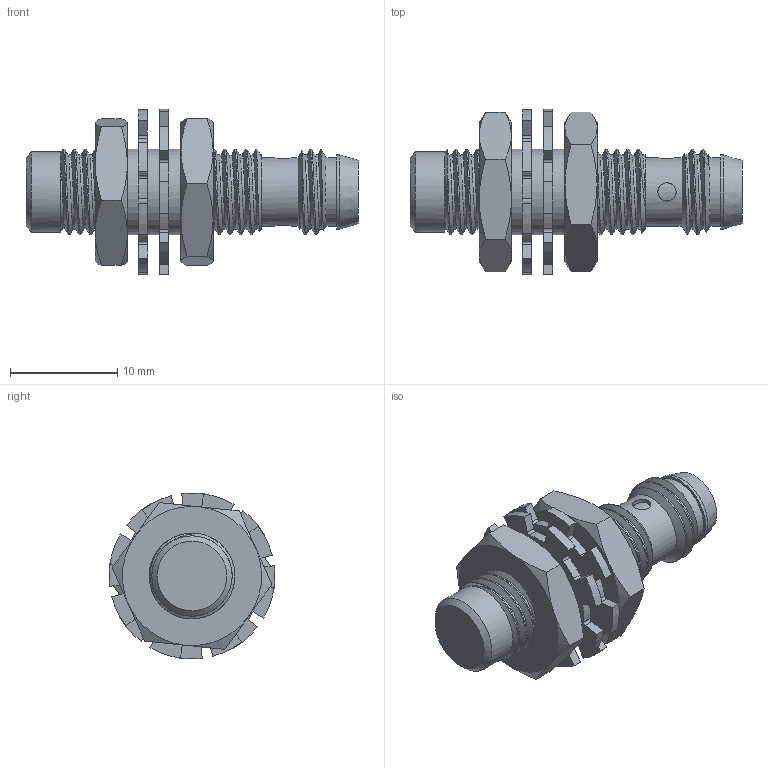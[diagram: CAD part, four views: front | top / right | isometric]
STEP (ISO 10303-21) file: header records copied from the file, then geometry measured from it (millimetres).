
FILE_DESCRIPTION (( 'STEP AP203' ), '1' );
FILE_NAME ('Ni-EG08K-X-V1.step', '2019-12-16T14:10:17', ( '' ), ( '' ), 'SwSTEP 2.0', 'SolidWorks 2017', '' );
FILE_SCHEMA (( 'CONFIG_CONTROL_DESIGN' ));
Length unit declared in the file: millimetre
Products named in the file (1): Ni-EG08K-X-V1
Bounding box: 31 x 15.5 x 15.5 mm (x, y, z)
Volume: 1935.2 mm3; surface area: 2232.8 mm2
Topology: 4 solids, 4 shells, 185 faces, 506 edges, 332 vertices
Faces by surface type: cylinder 82, plane 58, cone 31, bspline 14
Full cylindrical faces by diameter (mm): 1.1 x3, 1.7 x3, 5.6 x1, 5.678 x1, 6.4 x2, 6.924 x1, 7.5 x1, 8 x1, 8.2 x2
Entity records: 9889 total; most frequent: CARTESIAN_POINT 5389, ORIENTED_EDGE 934, DIRECTION 895, EDGE_CURVE 467, AXIS2_PLACEMENT_3D 361, VERTEX_POINT 320, EDGE_LOOP 225, FACE_OUTER_BOUND 200
